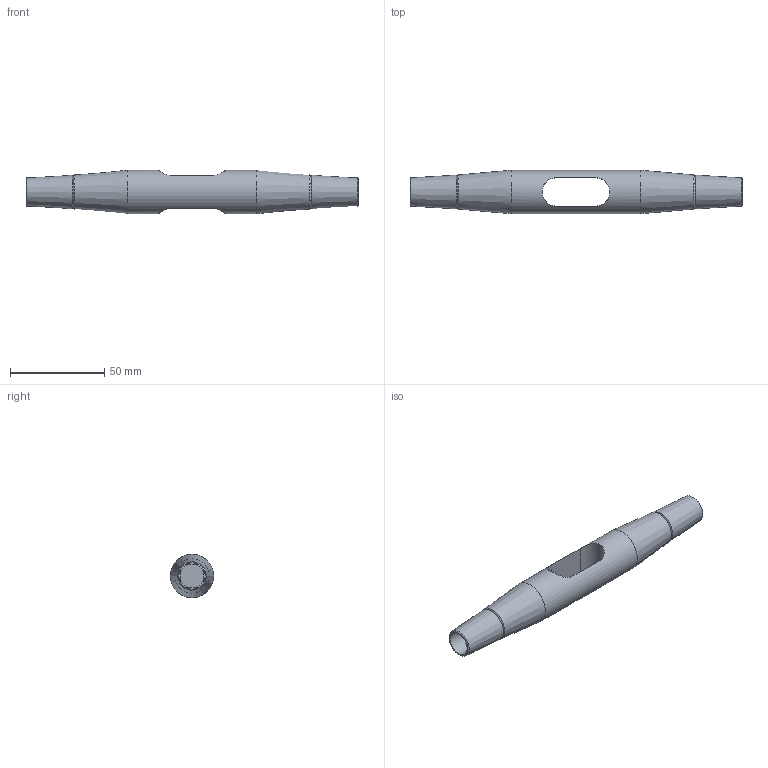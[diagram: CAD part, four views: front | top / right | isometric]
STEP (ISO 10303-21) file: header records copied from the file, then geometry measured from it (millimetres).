
FILE_DESCRIPTION(/* description */ (''),/* implementation_level */ '2;1');
FILE_NAME(/* name */ 'G:\Engineering\700 CAD\Internet-PX-1-step-igs-dxf\520-KMF-Arbeitsdateien\520-012-KMF.stp',/* time_stamp */ '2020-07-02T13:17:39+02:00',/* author */ ('schwarz'),/* organization */ (''),/* preprocessor_version */ 'ST-DEVELOPER v16.1',/* originating_system */ 'Autodesk Inventor 2016',/* authorisation */ '');
FILE_SCHEMA (('AUTOMOTIVE_DESIGN { 1 0 10303 214 3 1 1 }'));
Length unit declared in the file: centimetre
Products named in the file (1): Kreuzmuffen-Set 520 012 Kunde
Bounding box: 176 x 23 x 23 mm (x, y, z)
Volume: 42942.2 mm3; surface area: 13760.9 mm2
Topology: 1 solids, 1 shells, 21 faces, 43 edges, 26 vertices
Faces by surface type: cone 10, plane 6, cylinder 5
Full cylindrical faces by diameter (mm): 12.6 x2, 23 x1
Entity records: 589 total; most frequent: CARTESIAN_POINT 142, DIRECTION 84, ORIENTED_EDGE 56, EDGE_LOOP 38, AXIS2_PLACEMENT_3D 38, EDGE_CURVE 28, VERTEX_POINT 24, STYLED_ITEM 22
